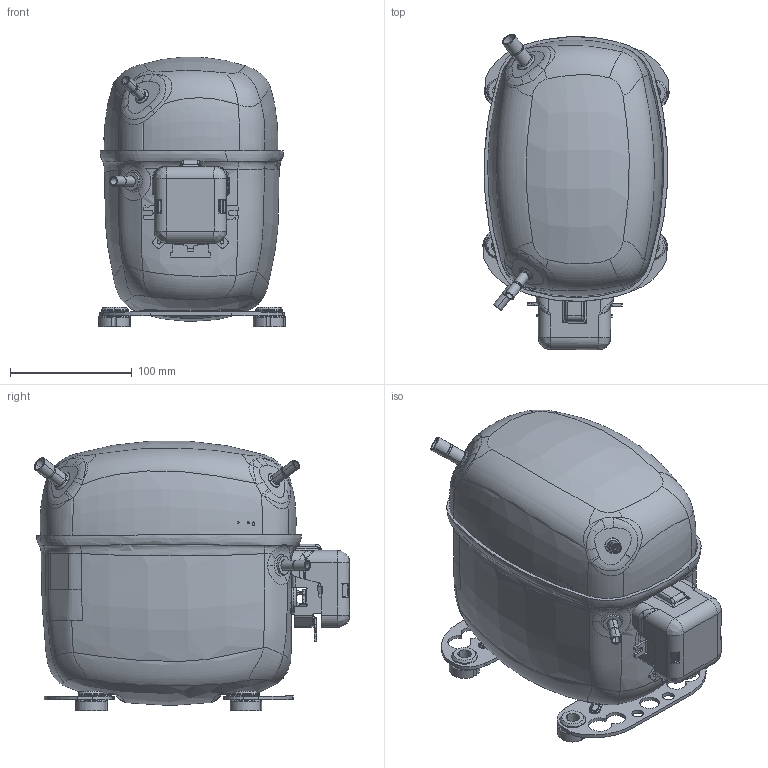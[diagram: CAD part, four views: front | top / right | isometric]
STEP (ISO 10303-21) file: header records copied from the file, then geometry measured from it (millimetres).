
FILE_DESCRIPTION((''),'2;1');
FILE_NAME('0000130310_ASM','2020-09-27T15:02:49',('CN6607'),(''),'CREO PARAMETRIC BY PTC INC, 2020053','CREO PARAMETRIC BY PTC INC, 2020053','');
FILE_SCHEMA(('CONFIG_CONTROL_DESIGN'));
Products named in the file (38): 104B0606_1_1_1; 104B0647_AF0_1_1_1; 104B0681_AF1_1_1_1; 104B2517_1_1_1; 104B2515_16_1_1_1; 104B1419_ASM_1_ASM_1_1_ASM; 0000095012_SCE_ASSY_ASM_1_ASM_2_ASM; 104B1404_DES_1_1_1; 104B0321_1_1_1; 104B0378_1_1_1; 104B0480_AF0_1_1_1; 104B1046_ASM_1_ASM_1_1_ASM; 104B0516_1_1_1; 104B0480_AF1_1_1_1; 104B1461_ASM_1_ASM_1_1_ASM; 104B0517_1_1_1; 104B0480_AF2_1_1_1; 104B1462_ASM_1_ASM_1_1_ASM; 104B0504_1_1_1; 117-3617_BODY_1_1_1; 117-3617_PINS_1_1_1; 117-3617_GLASS_FUSED_1_1_1; 117-3617_ASM_1_ASM_1_1_ASM; 104B0674_1_1_1; 104B0635_1_1_1; 104B0677_BENT_1_1_1; 104B0689_BENT_ASM_1_ASM_1_1_ASM; 103N0510_1_1_1; 104B1284_ASM_1_ASM_1_1_ASM; 117A6199_1_2_1_1; 117A6199_1_3_1_1; 117A6199_1_4_1_1; 117A6199_1_ASM_1_1_ASM; SLVE18CN_ASSY_ASM_1_ASM_1_1_ASM; 118-3670_1_1; 103N2008_1_1; SLVE18CN_ASSY_SHELL_ASM_1_1_ASM; 0000130310_ASM
Assembly tree (45 placements, depth 6):
  0000130310_ASM
    SLVE18CN_ASSY_SHELL_ASM_1_1_ASM
      SLVE18CN_ASSY_ASM_1_ASM_1_1_ASM
        0000095012_SCE_ASSY_ASM_1_ASM_2_ASM
          104B1419_ASM_1_ASM_1_1_ASM
            104B0606_1_1_1
            104B0647_AF0_1_1_1
            104B0681_AF1_1_1_1
            104B2517_1_1_1
            104B2515_16_1_1_1
        104B1284_ASM_1_ASM_1_1_ASM
          104B1404_DES_1_1_1
          104B0321_1_1_1  x2
          104B1046_ASM_1_ASM_1_1_ASM
            104B0378_1_1_1
            104B0480_AF0_1_1_1
          104B1461_ASM_1_ASM_1_1_ASM
            104B0516_1_1_1
            104B0480_AF1_1_1_1
          104B1462_ASM_1_ASM_1_1_ASM
            104B0517_1_1_1
            104B0480_AF2_1_1_1
          104B0504_1_1_1
          117-3617_ASM_1_ASM_1_1_ASM
            117-3617_BODY_1_1_1
            117-3617_PINS_1_1_1  x3
            117-3617_GLASS_FUSED_1_1_1  x3
          104B0689_BENT_ASM_1_ASM_1_1_ASM
            104B0674_1_1_1
            104B0635_1_1_1
            104B0677_BENT_1_1_1
          103N0510_1_1_1
        117A6199_1_ASM_1_1_ASM
          117A6199_1_2_1_1
          117A6199_1_3_1_1
          117A6199_1_4_1_1
      118-3670_1_1  x4
      103N2008_1_1
Bounding box: 153.16 x 259.49 x 221.73 mm (x, y, z)
Volume: 558646.2 mm3; surface area: 405042 mm2
Topology: 34 solids, 34 shells, 2179 faces, 5746 edges, 3616 vertices
Faces by surface type: cylinder 588, plane 525, bspline 507, torus 284, cone 179, sphere 60, extrusion 24, revolution 12
Entity records: 149129 total; most frequent: CARTESIAN_POINT 103553, ORIENTED_EDGE 10098, DIRECTION 8584, EDGE_CURVE 5049, AXIS2_PLACEMENT_3D 3441, VERTEX_POINT 3205, EDGE_LOOP 2024, FACE_OUTER_BOUND 1930
